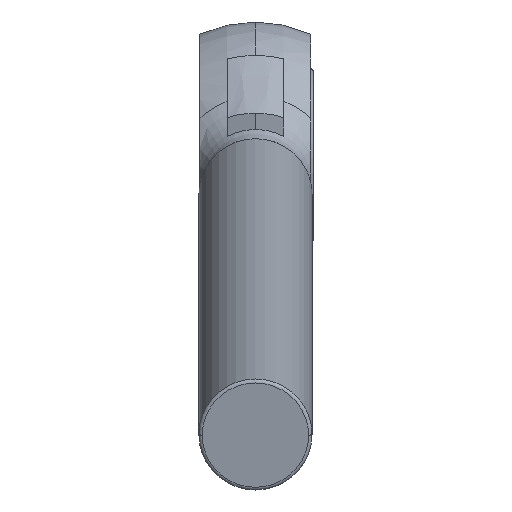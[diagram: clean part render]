
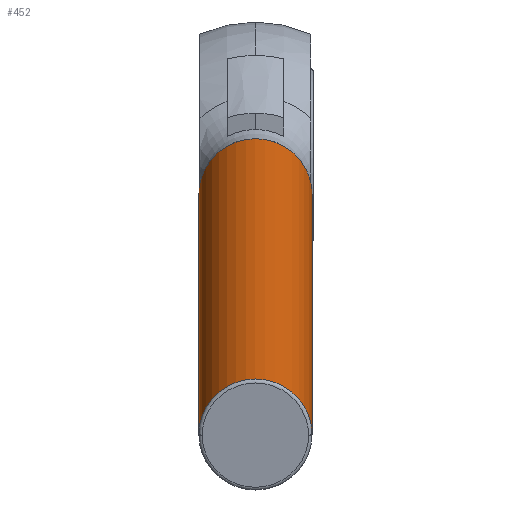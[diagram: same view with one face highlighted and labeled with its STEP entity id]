
A CAD part, left-side view. The second image highlights one B-rep face of the part: STEP entity #452.
In plain terms, the highlighted cylindrical face has radius 25 mm (diameter 50 mm), a partial arc.
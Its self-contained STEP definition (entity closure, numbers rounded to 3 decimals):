
#39 = ORIENTED_EDGE ( 'NONE', *, *, #2463, .T. ) ;
#160 = VERTEX_POINT ( 'NONE', #2641 ) ;
#182 = DIRECTION ( 'NONE',  ( -0.98, 0., -0.199 ) ) ;
#414 = FACE_OUTER_BOUND ( 'NONE', #1384, .T. ) ;
#431 = EDGE_CURVE ( 'NONE', #596, #160, #1651, .T. ) ;
#452 = ADVANCED_FACE ( 'NONE', ( #414 ), #1680, .T. ) ;
#470 = DIRECTION ( 'NONE',  ( -0.98, 0., -0.199 ) ) ;
#515 = DIRECTION ( 'NONE',  ( -0.98, 0., -0.199 ) ) ;
#535 = CARTESIAN_POINT ( 'NONE',  ( 30.836, -169., 717.09 ) ) ;
#596 = VERTEX_POINT ( 'NONE', #1217 ) ;
#641 = DIRECTION ( 'NONE',  ( 0., -1., 0. ) ) ;
#665 = AXIS2_PLACEMENT_3D ( 'NONE', #2435, #515, #1387 ) ;
#740 = DIRECTION ( 'NONE',  ( 0., -1., 0. ) ) ;
#744 = AXIS2_PLACEMENT_3D ( 'NONE', #2765, #470, #641 ) ;
#862 = EDGE_CURVE ( 'NONE', #2570, #1463, #2152, .T. ) ;
#1058 = CARTESIAN_POINT ( 'NONE',  ( -490.473, -194., 610.97 ) ) ;
#1164 = CIRCLE ( 'NONE', #2663, 25. ) ;
#1217 = CARTESIAN_POINT ( 'NONE',  ( 30.836, -219., 717.09 ) ) ;
#1382 = VECTOR ( 'NONE', #2116, 1000. ) ;
#1384 = EDGE_LOOP ( 'NONE', ( #39, #2353, #1544, #2717 ) ) ;
#1387 = DIRECTION ( 'NONE',  ( 0., -1., 0. ) ) ;
#1437 = CARTESIAN_POINT ( 'NONE',  ( -551.422, -219., 598.563 ) ) ;
#1463 = VERTEX_POINT ( 'NONE', #2332 ) ;
#1544 = ORIENTED_EDGE ( 'NONE', *, *, #2338, .F. ) ;
#1651 = LINE ( 'NONE', #1437, #1382 ) ;
#1680 = CYLINDRICAL_SURFACE ( 'NONE', #744, 25. ) ;
#2106 = CIRCLE ( 'NONE', #665, 25. ) ;
#2116 = DIRECTION ( 'NONE',  ( -0.98, 0., -0.199 ) ) ;
#2152 = LINE ( 'NONE', #2400, #2187 ) ;
#2187 = VECTOR ( 'NONE', #2604, 1000. ) ;
#2332 = CARTESIAN_POINT ( 'NONE',  ( -490.473, -169., 610.97 ) ) ;
#2338 = EDGE_CURVE ( 'NONE', #160, #1463, #1164, .T. ) ;
#2353 = ORIENTED_EDGE ( 'NONE', *, *, #862, .T. ) ;
#2400 = CARTESIAN_POINT ( 'NONE',  ( -551.422, -169., 598.563 ) ) ;
#2435 = CARTESIAN_POINT ( 'NONE',  ( 30.836, -194., 717.09 ) ) ;
#2463 = EDGE_CURVE ( 'NONE', #596, #2570, #2106, .T. ) ;
#2570 = VERTEX_POINT ( 'NONE', #535 ) ;
#2604 = DIRECTION ( 'NONE',  ( -0.98, 0., -0.199 ) ) ;
#2641 = CARTESIAN_POINT ( 'NONE',  ( -490.473, -219., 610.97 ) ) ;
#2663 = AXIS2_PLACEMENT_3D ( 'NONE', #1058, #182, #740 ) ;
#2717 = ORIENTED_EDGE ( 'NONE', *, *, #431, .F. ) ;
#2765 = CARTESIAN_POINT ( 'NONE',  ( -551.422, -194., 598.563 ) ) ;
